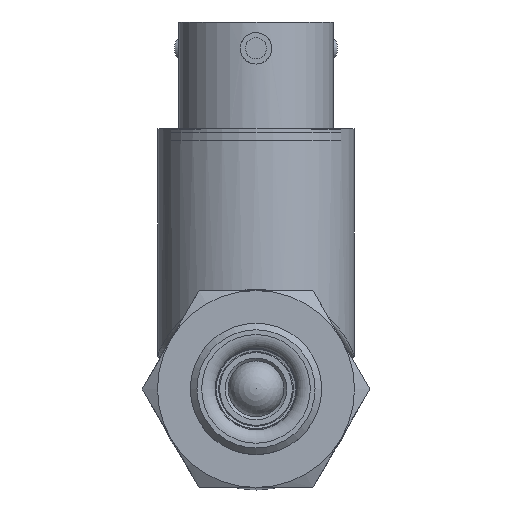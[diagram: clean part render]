
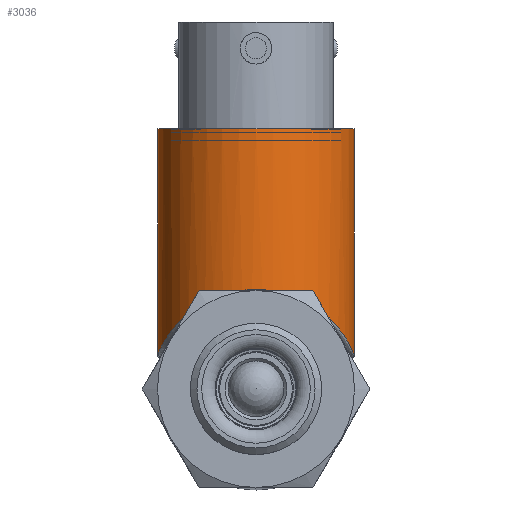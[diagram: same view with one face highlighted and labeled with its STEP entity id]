
A CAD part, top view. The second image highlights one B-rep face of the part: STEP entity #3036.
In plain terms, the highlighted cylindrical face has radius 9.525 mm (diameter 19.05 mm), a full revolution.
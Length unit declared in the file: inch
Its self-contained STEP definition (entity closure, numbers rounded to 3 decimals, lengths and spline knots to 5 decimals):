
#82=B_SPLINE_CURVE_WITH_KNOTS('',3,(#5365,#5366,#5367,#5368,#5369,#5370,
#5371,#5372,#5373,#5374,#5375,#5376,#5377,#5378,#5379,#5380,#5381,#5382,
#5383,#5384,#5385,#5386,#5387,#5388,#5389,#5390,#5391,#5392,#5393,#5394),
 .UNSPECIFIED.,.F.,.F.,(4,1,1,1,1,1,1,1,1,1,1,1,1,1,1,1,1,1,1,1,1,1,1,1,
1,1,1,4),(-9.63704,-9.40762,-9.17816,-8.71925,
-8.41331,-8.26035,-8.10738,-8.03089,
-7.95441,-7.80144,-7.4955,-7.18956,
-6.88362,-6.57768,-6.27174,-5.9658,
-5.65987,-5.35393,-5.04799,-4.93326,
-4.81853,-4.70381,-4.58908,-4.47435,
-4.35963,-4.13017,-3.67126,-3.21236),
 .UNSPECIFIED.);
#326=FACE_OUTER_BOUND('',#540,.T.);
#540=EDGE_LOOP('',(#2036,#2037,#2038,#2039));
#786=LINE('',#5429,#925);
#925=VECTOR('',#3898,0.375);
#1070=CIRCLE('',#3422,0.375);
#1291=VERTEX_POINT('',#5364);
#1293=VERTEX_POINT('',#5428);
#1574=EDGE_CURVE('',#1291,#1291,#82,.T.);
#1577=EDGE_CURVE('',#1293,#1291,#786,.T.);
#1578=EDGE_CURVE('',#1293,#1293,#1070,.T.);
#2036=ORIENTED_EDGE('',*,*,#1574,.F.);
#2037=ORIENTED_EDGE('',*,*,#1577,.F.);
#2038=ORIENTED_EDGE('',*,*,#1578,.F.);
#2039=ORIENTED_EDGE('',*,*,#1577,.T.);
#2748=CYLINDRICAL_SURFACE('',#3421,0.375);
#3036=ADVANCED_FACE('',(#326),#2748,.T.);
#3421=AXIS2_PLACEMENT_3D('',#5427,#3896,#3897);
#3422=AXIS2_PLACEMENT_3D('',#5430,#3899,#3900);
#3896=DIRECTION('center_axis',(0.,1.,0.));
#3897=DIRECTION('ref_axis',(0.,0.,
1.));
#3898=DIRECTION('',(0.,-1.,0.));
#3899=DIRECTION('center_axis',(0.,1.,0.));
#3900=DIRECTION('ref_axis',(0.,0.,
1.));
#5364=CARTESIAN_POINT('',(0.,0.3875,-2.));
#5365=CARTESIAN_POINT('Ctrl Pts',(0.,0.3875,
-2.));
#5366=CARTESIAN_POINT('Ctrl Pts',(0.03115,0.3875,
-2.));
#5367=CARTESIAN_POINT('Ctrl Pts',(0.09334,0.38035,
-1.99211));
#5368=CARTESIAN_POINT('Ctrl Pts',(0.20458,0.34113,-1.94847));
#5369=CARTESIAN_POINT('Ctrl Pts',(0.29317,0.27243,-1.87028));
#5370=CARTESIAN_POINT('Ctrl Pts',(0.34371,0.20219,-1.78173));
#5371=CARTESIAN_POINT('Ctrl Pts',(0.36561,0.15993,-1.71433));
#5372=CARTESIAN_POINT('Ctrl Pts',(0.37367,0.14039,-1.66655));
#5373=CARTESIAN_POINT('Ctrl Pts',(0.37544,0.13578,-1.625));
#5374=CARTESIAN_POINT('Ctrl Pts',(0.37368,0.14035,-1.5834));
#5375=CARTESIAN_POINT('Ctrl Pts',(0.36229,0.16811,-1.51674));
#5376=CARTESIAN_POINT('Ctrl Pts',(0.32975,0.22594,-1.43718));
#5377=CARTESIAN_POINT('Ctrl Pts',(0.26716,0.29417,-1.35484));
#5378=CARTESIAN_POINT('Ctrl Pts',(0.17871,0.35264,-1.28868));
#5379=CARTESIAN_POINT('Ctrl Pts',(0.06402,0.38891,
-1.24841));
#5380=CARTESIAN_POINT('Ctrl Pts',(-0.06405,0.389,
-1.24833));
#5381=CARTESIAN_POINT('Ctrl Pts',(-0.17868,0.35262,
-1.28869));
#5382=CARTESIAN_POINT('Ctrl Pts',(-0.26715,0.29418,
-1.35483));
#5383=CARTESIAN_POINT('Ctrl Pts',(-0.32978,0.22584,
-1.43715));
#5384=CARTESIAN_POINT('Ctrl Pts',(-0.36065,0.17106,
-1.5129));
#5385=CARTESIAN_POINT('Ctrl Pts',(-0.37301,0.14215,
-1.57838));
#5386=CARTESIAN_POINT('Ctrl Pts',(-0.376,0.1343,
-1.62507));
#5387=CARTESIAN_POINT('Ctrl Pts',(-0.37299,0.1422,
-1.67162));
#5388=CARTESIAN_POINT('Ctrl Pts',(-0.36509,0.1606,
-1.71384));
#5389=CARTESIAN_POINT('Ctrl Pts',(-0.35344,0.1835,-1.75235));
#5390=CARTESIAN_POINT('Ctrl Pts',(-0.3333,0.21697,
-1.80024));
#5391=CARTESIAN_POINT('Ctrl Pts',(-0.28626,0.27745,
-1.87619));
#5392=CARTESIAN_POINT('Ctrl Pts',(-0.18459,0.35739,
-1.96681));
#5393=CARTESIAN_POINT('Ctrl Pts',(-0.06231,0.3875,
-2.));
#5394=CARTESIAN_POINT('Ctrl Pts',(-0.00001,0.3875,
-2.));
#5427=CARTESIAN_POINT('Origin',(0.,0.5,
-1.625));
#5428=CARTESIAN_POINT('',(0.,1.,-2.));
#5429=CARTESIAN_POINT('',(0.,0.5,-2.));
#5430=CARTESIAN_POINT('Origin',(0.,1.,-1.625));
